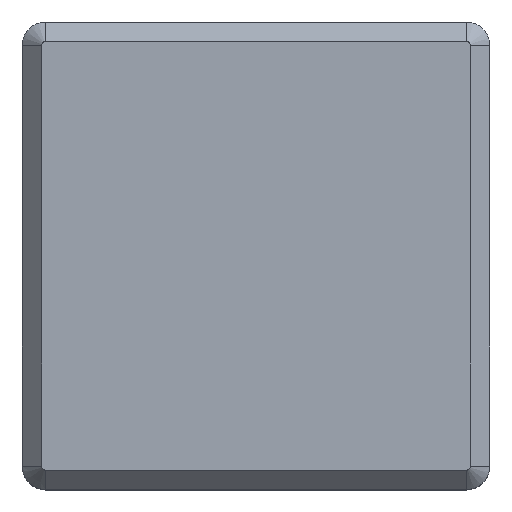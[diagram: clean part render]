
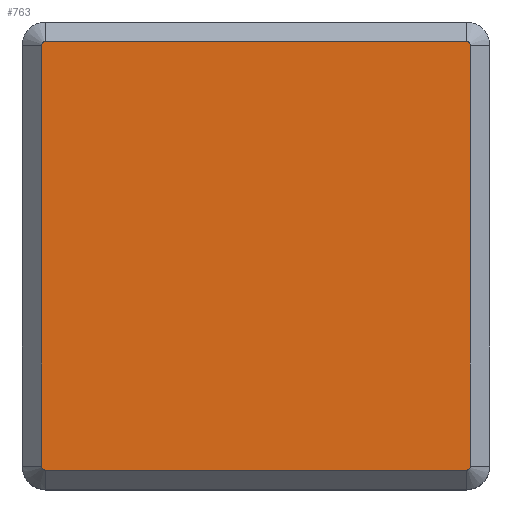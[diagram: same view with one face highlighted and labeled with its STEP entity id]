
A CAD part, top view. The second image highlights one B-rep face of the part: STEP entity #763.
In plain terms, the highlighted planar face has unit normal (0, 0, 1).
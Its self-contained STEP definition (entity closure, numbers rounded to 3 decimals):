
#40=CIRCLE('',#822,0.5);
#42=CIRCLE('',#826,0.5);
#44=CIRCLE('',#830,0.5);
#46=CIRCLE('',#834,0.5);
#127=FACE_OUTER_BOUND('',#175,.T.);
#175=EDGE_LOOP('',(#569,#570,#571,#572,#573,#574,#575,#576));
#222=LINE('',#1185,#280);
#227=LINE('',#1199,#285);
#231=LINE('',#1211,#289);
#235=LINE('',#1223,#293);
#280=VECTOR('',#924,10.);
#285=VECTOR('',#937,10.);
#289=VECTOR('',#949,10.);
#293=VECTOR('',#961,10.);
#338=VERTEX_POINT('',#1182);
#339=VERTEX_POINT('',#1184);
#342=VERTEX_POINT('',#1192);
#344=VERTEX_POINT('',#1197);
#346=VERTEX_POINT('',#1204);
#348=VERTEX_POINT('',#1209);
#350=VERTEX_POINT('',#1216);
#352=VERTEX_POINT('',#1221);
#412=EDGE_CURVE('',#338,#339,#222,.T.);
#417=EDGE_CURVE('',#342,#338,#40,.T.);
#419=EDGE_CURVE('',#344,#342,#227,.T.);
#423=EDGE_CURVE('',#346,#344,#42,.T.);
#425=EDGE_CURVE('',#348,#346,#231,.T.);
#429=EDGE_CURVE('',#350,#348,#44,.T.);
#431=EDGE_CURVE('',#352,#350,#235,.T.);
#434=EDGE_CURVE('',#339,#352,#46,.T.);
#569=ORIENTED_EDGE('',*,*,#412,.F.);
#570=ORIENTED_EDGE('',*,*,#417,.F.);
#571=ORIENTED_EDGE('',*,*,#419,.F.);
#572=ORIENTED_EDGE('',*,*,#423,.F.);
#573=ORIENTED_EDGE('',*,*,#425,.F.);
#574=ORIENTED_EDGE('',*,*,#429,.F.);
#575=ORIENTED_EDGE('',*,*,#431,.F.);
#576=ORIENTED_EDGE('',*,*,#434,.F.);
#747=PLANE('',#841);
#763=ADVANCED_FACE('',(#127),#747,.T.);
#822=AXIS2_PLACEMENT_3D('',#1194,#932,#933);
#826=AXIS2_PLACEMENT_3D('',#1206,#944,#945);
#830=AXIS2_PLACEMENT_3D('',#1218,#956,#957);
#834=AXIS2_PLACEMENT_3D('',#1227,#967,#968);
#841=AXIS2_PLACEMENT_3D('',#1246,#988,#989);
#924=DIRECTION('',(-1.,0.,0.));
#932=DIRECTION('center_axis',(0.,0.,-1.));
#933=DIRECTION('ref_axis',(0.707,-0.707,0.));
#937=DIRECTION('',(0.,-1.,0.));
#944=DIRECTION('center_axis',(0.,0.,-1.));
#945=DIRECTION('ref_axis',(0.707,0.707,0.));
#949=DIRECTION('',(1.,0.,0.));
#956=DIRECTION('center_axis',(0.,0.,-1.));
#957=DIRECTION('ref_axis',(-0.707,0.707,0.));
#961=DIRECTION('',(0.,1.,0.));
#967=DIRECTION('center_axis',(0.,0.,-1.));
#968=DIRECTION('ref_axis',(-0.707,-0.707,0.));
#988=DIRECTION('center_axis',(0.,0.,1.));
#989=DIRECTION('ref_axis',(1.,0.,0.));
#1182=CARTESIAN_POINT('',(27.,-27.5,0.));
#1184=CARTESIAN_POINT('',(-27.,-27.5,0.));
#1185=CARTESIAN_POINT('',(15.,-27.5,0.));
#1192=CARTESIAN_POINT('',(27.5,-27.,0.));
#1194=CARTESIAN_POINT('Origin',(27.,-27.,0.));
#1197=CARTESIAN_POINT('',(27.5,27.,0.));
#1199=CARTESIAN_POINT('',(27.5,15.,0.));
#1204=CARTESIAN_POINT('',(27.,27.5,0.));
#1206=CARTESIAN_POINT('Origin',(27.,27.,0.));
#1209=CARTESIAN_POINT('',(-27.,27.5,0.));
#1211=CARTESIAN_POINT('',(-15.,27.5,0.));
#1216=CARTESIAN_POINT('',(-27.5,27.,0.));
#1218=CARTESIAN_POINT('Origin',(-27.,27.,0.));
#1221=CARTESIAN_POINT('',(-27.5,-27.,0.));
#1223=CARTESIAN_POINT('',(-27.5,-15.,0.));
#1227=CARTESIAN_POINT('Origin',(-27.,-27.,0.));
#1246=CARTESIAN_POINT('Origin',(0.,0.,0.));
